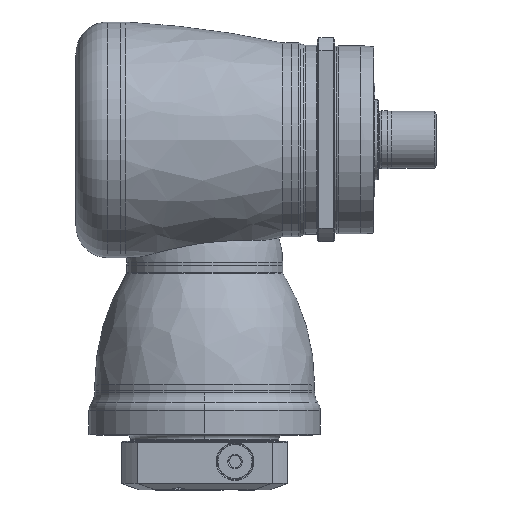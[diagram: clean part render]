
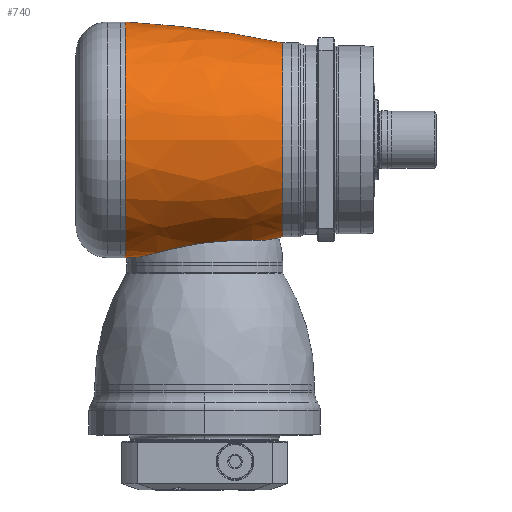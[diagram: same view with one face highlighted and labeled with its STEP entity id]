
A CAD part, top view. The second image highlights one B-rep face of the part: STEP entity #740.
In plain terms, the highlighted free-form (B-spline) face has degree [3, 3] with [7, 4] control points.
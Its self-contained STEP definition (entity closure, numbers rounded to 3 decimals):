
#115=CARTESIAN_POINT('',(-92.521,617.494,
0.));
#116=DIRECTION('',(0.,0.,-1.));
#117=DIRECTION('',(0.064,-0.998,0.));
#118=AXIS2_PLACEMENT_3D('',#115,#116,#117);
#120=CARTESIAN_POINT('',(-92.521,617.494,
0.));
#121=DIRECTION('',(0.,0.,-1.));
#122=DIRECTION('',(0.209,-0.978,0.));
#123=AXIS2_PLACEMENT_3D('',#120,#121,#122);
#130=CARTESIAN_POINT('',(-92.521,-617.494,
0.));
#131=DIRECTION('',(0.,0.,1.));
#132=DIRECTION('',(0.209,0.978,0.));
#133=AXIS2_PLACEMENT_3D('',#130,#131,#132);
#155=CARTESIAN_POINT('',(-55.,81.498,0.556));
#157=CARTESIAN_POINT('',(-55.,0.,0.));
#158=DIRECTION('',(1.,0.,0.));
#159=DIRECTION('',(0.,1.,0.007));
#160=AXIS2_PLACEMENT_3D('',#157,#158,#159);
#227=CARTESIAN_POINT('',(-54.763,81.487,
0.));
#228=CARTESIAN_POINT('',(-54.763,81.487,0.104));
#229=CARTESIAN_POINT('',(-54.805,81.489,0.311));
#230=CARTESIAN_POINT('',(-54.925,81.495,0.485));
#231=CARTESIAN_POINT('',(-55.,81.498,0.556));
#233=CARTESIAN_POINT('',(54.,0.,0.));
#234=DIRECTION('',(1.,0.,0.));
#235=DIRECTION('',(0.,1.,0.));
#236=AXIS2_PLACEMENT_3D('',#233,#234,#235);
#304=CARTESIAN_POINT('',(-47.703,-81.07,0.));
#305=CARTESIAN_POINT('',(-46.711,-81.006,1.883));
#306=CARTESIAN_POINT('',(-44.473,-80.728,5.573));
#307=CARTESIAN_POINT('',(-40.271,-79.881,10.825));
#308=CARTESIAN_POINT('',(-35.457,-78.725,15.432));
#309=CARTESIAN_POINT('',(-30.052,-77.36,19.386));
#310=CARTESIAN_POINT('',(-24.133,-75.891,22.612));
#311=CARTESIAN_POINT('',(-17.681,-74.404,25.078));
#312=CARTESIAN_POINT('',(-10.911,-73.028,26.68));
#313=CARTESIAN_POINT('',(-3.939,-71.853,27.373));
#314=CARTESIAN_POINT('',(2.54,-70.989,27.228));
#315=CARTESIAN_POINT('',(9.265,-70.327,26.29));
#316=CARTESIAN_POINT('',(15.865,-69.908,24.519));
#317=CARTESIAN_POINT('',(22.183,-69.694,21.955));
#318=CARTESIAN_POINT('',(27.994,-69.62,18.707));
#319=CARTESIAN_POINT('',(33.264,-69.595,14.827));
#320=CARTESIAN_POINT('',(37.917,-69.53,10.394));
#321=CARTESIAN_POINT('',(41.953,-69.326,5.394));
#322=CARTESIAN_POINT('',(44.113,-69.043,1.827));
#323=CARTESIAN_POINT('',(45.059,-68.853,
0.));
#415=CARTESIAN_POINT('',(54.,67.,0.));
#417=VERTEX_POINT('',#415);
#419=CARTESIAN_POINT('',(54.,-67.,0.));
#421=VERTEX_POINT('',#419);
#422=CARTESIAN_POINT('',(45.059,-68.853,
0.));
#423=VERTEX_POINT('',#422);
#424=CARTESIAN_POINT('',(-47.703,-81.07,
0.));
#425=CARTESIAN_POINT('',(-55.,-81.5,0.));
#426=VERTEX_POINT('',#424);
#427=VERTEX_POINT('',#425);
#460=VERTEX_POINT('',#155);
#465=VERTEX_POINT('',#227);
#700=CARTESIAN_POINT('',(-57.198,81.453,-5.125));
#701=CARTESIAN_POINT('',(-19.046,79.53,-5.004));
#702=CARTESIAN_POINT('',(18.822,74.502,-4.687));
#703=CARTESIAN_POINT('',(56.152,66.405,-4.178));
#704=CARTESIAN_POINT('',(-57.198,84.607,45.002));
#705=CARTESIAN_POINT('',(-19.046,82.609,43.939));
#706=CARTESIAN_POINT('',(18.822,77.387,41.161));
#707=CARTESIAN_POINT('',(56.152,68.976,36.687));
#708=CARTESIAN_POINT('',(-57.198,50.225,81.615));
#709=CARTESIAN_POINT('',(-19.046,49.039,79.687));
#710=CARTESIAN_POINT('',(18.822,45.939,74.649));
#711=CARTESIAN_POINT('',(56.152,40.946,66.536));
#712=CARTESIAN_POINT('',(-57.198,0.,
81.615));
#713=CARTESIAN_POINT('',(-19.046,0.,
79.687));
#714=CARTESIAN_POINT('',(18.822,0.,74.649));
#715=CARTESIAN_POINT('',(56.152,0.,66.536));
#716=CARTESIAN_POINT('',(-57.198,-50.225,81.615));
#717=CARTESIAN_POINT('',(-19.046,-49.039,79.687));
#718=CARTESIAN_POINT('',(18.822,-45.939,74.649));
#719=CARTESIAN_POINT('',(56.152,-40.946,66.536));
#720=CARTESIAN_POINT('',(-57.198,-84.607,45.002));
#721=CARTESIAN_POINT('',(-19.046,-82.609,43.939));
#722=CARTESIAN_POINT('',(18.822,-77.387,41.161));
#723=CARTESIAN_POINT('',(56.152,-68.976,36.687));
#724=CARTESIAN_POINT('',(-57.198,-81.453,
-5.125));
#725=CARTESIAN_POINT('',(-19.046,-79.53,
-5.004));
#726=CARTESIAN_POINT('',(18.822,-74.502,-4.687));
#727=CARTESIAN_POINT('',(56.152,-66.405,-4.178));
#728=(BOUNDED_SURFACE()B_SPLINE_SURFACE(3,3,((#700,#701,#702,#703),(#704,#705,
#706,#707),(#708,#709,#710,#711),(#712,#713,#714,#715),(#716,#717,#718,#719),(
#720,#721,#722,#723),(#724,#725,#726,#727)),.UNSPECIFIED.,.F.,.F.,.F.)B_SPLINE_SURFACE_WITH_KNOTS((4,3,4),(4,4),(0.,1.,2.),(0.,1.),.UNSPECIFIED.)GEOMETRIC_REPRESENTATION_ITEM()RATIONAL_B_SPLINE_SURFACE(((1.189,
1.187,1.187,1.189),(0.939,
0.937,0.937,0.939),(0.939,
0.937,0.937,0.939),(1.189,
1.187,1.187,1.189),(0.939,
0.937,0.937,0.939),(0.939,
0.937,0.937,0.939),(1.189,
1.187,1.187,1.189)))REPRESENTATION_ITEM('')SURFACE());
#729=ORIENTED_EDGE('',*,*,#594,.F.);
#730=ORIENTED_EDGE('',*,*,#575,.F.);
#732=ORIENTED_EDGE('',*,*,#731,.T.);
#733=ORIENTED_EDGE('',*,*,#571,.T.);
#735=ORIENTED_EDGE('',*,*,#734,.F.);
#736=ORIENTED_EDGE('',*,*,#564,.T.);
#737=ORIENTED_EDGE('',*,*,#607,.F.);
#738=EDGE_LOOP('',(#729,#730,#732,#733,#735,#736,#737));
#739=FACE_OUTER_BOUND('',#738,.F.);
#740=ADVANCED_FACE('',(#739),#728,.T.);
#119=CIRCLE('',#118,700.);
#124=CIRCLE('',#123,700.);
#134=CIRCLE('',#133,700.);
#161=CIRCLE('',#160,81.5);
#232=B_SPLINE_CURVE_WITH_KNOTS('',3,(#227,#228,#229,#230,#231),.UNSPECIFIED.,
.F.,.F.,(4,1,4),(0.,0.5,1.),.UNSPECIFIED.);
#237=CIRCLE('',#236,67.);
#324=B_SPLINE_CURVE_WITH_KNOTS('',3,(#304,#305,#306,#307,#308,#309,#310,#311,
#312,#313,#314,#315,#316,#317,#318,#319,#320,#321,#322,#323),.UNSPECIFIED.,.F.,
.F.,(4,1,1,1,1,1,1,1,1,1,1,1,1,1,1,1,1,4),(0.,0.059,
0.118,0.176,0.235,0.294,
0.353,0.412,0.471,0.529,
0.588,0.647,0.706,0.765,
0.824,0.882,0.941,1.),.UNSPECIFIED.);
#564=EDGE_CURVE('',#426,#427,#119,.T.);
#571=EDGE_CURVE('',#421,#423,#124,.T.);
#575=EDGE_CURVE('',#417,#465,#134,.T.);
#594=EDGE_CURVE('',#465,#460,#232,.T.);
#607=EDGE_CURVE('',#460,#427,#161,.T.);
#731=EDGE_CURVE('',#417,#421,#237,.T.);
#734=EDGE_CURVE('',#426,#423,#324,.T.);
